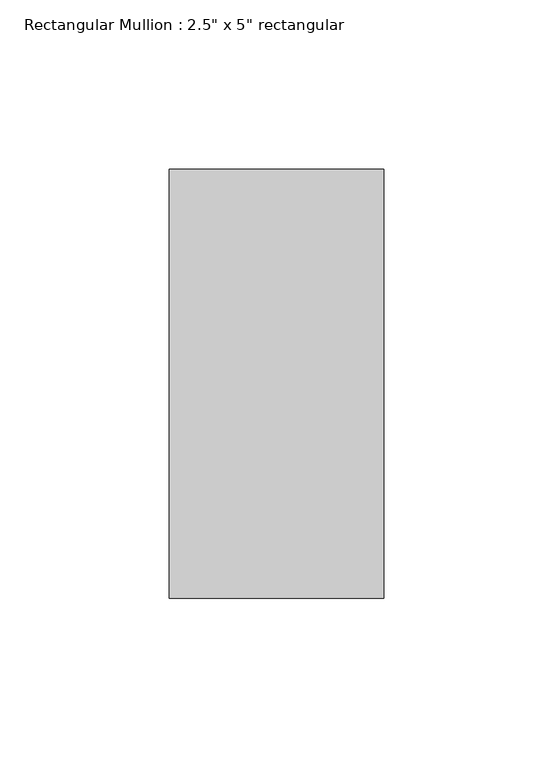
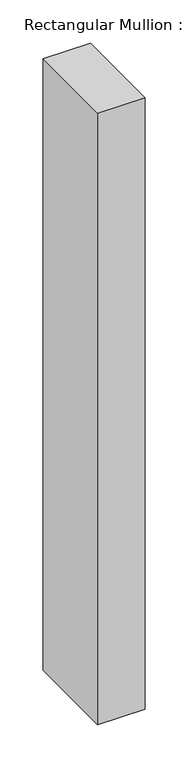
"""IFC4 building model written with IfcOpenShell, lengths in millimetres: member geometry."""

from ifc_helpers import new_model, si_unit, frame, origin, place, context, project, spatial, polyline, outline, extrude, source, transform, mapped, element, save


def member_69cae7f1(model_context):
    return source(origin(), model_context, "Body", "SweptSolid", [
        extrude(outline(polyline([(31.75, 63.5), (31.75, -63.5), (-31.75, -63.5), (-31.75, 63.5), (31.75, 63.5)])), frame((0.0, 0.0, -865.9190025), z_axis=(0.0, 0.0, 1.0), x_axis=(1.0, 0.0, 0.0)), (0.0, 0.0, 1.0), 865.9190025),
    ])


if __name__ == "__main__":
    model = new_model("IFC4")
    model_context = context("Model", 3, world=origin())
    ifc_project = project(units=[si_unit("LENGTHUNIT", "METRE", prefix="MILLI")], contexts=[model_context])
    site = spatial("IfcSite", under=ifc_project)
    building = spatial("IfcBuilding", under=site)
    placement = place(None, origin())
    member_shape = member_69cae7f1(model_context)
    element("IfcMember", 1, ObjectType="Rectangular Mullion : 2.5\" x 5\" rectangular", at=placement, inside=building, context=model_context, shape_type="MappedRepresentation", body=[
        mapped(member_shape, transform((0.0, 0.0, 0.0), x_axis=(1.0, 0.0, 0.0), y_axis=(0.0, 1.0, 0.0), z_axis=(0.0, 0.0, 1.0))),
    ])
    save(model, "model.ifc")
